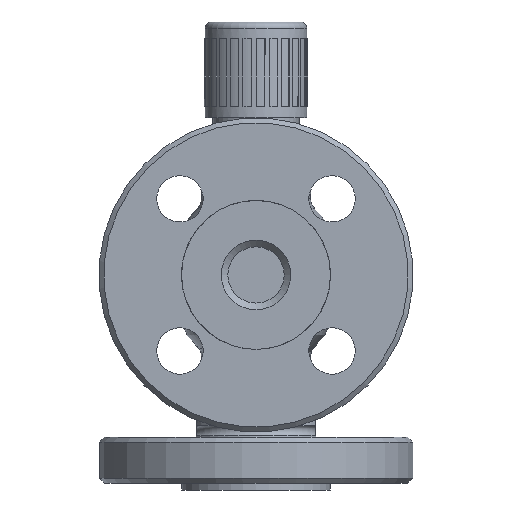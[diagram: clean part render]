
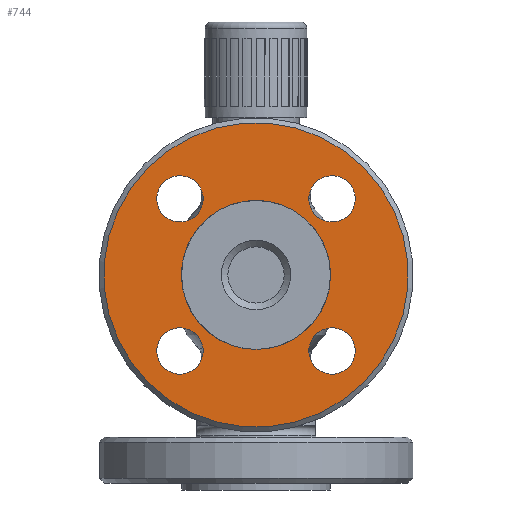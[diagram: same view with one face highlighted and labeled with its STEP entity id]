
A CAD part, left-side view. The second image highlights one B-rep face of the part: STEP entity #744.
In plain terms, the highlighted planar face has unit normal (-1, 0, 0).
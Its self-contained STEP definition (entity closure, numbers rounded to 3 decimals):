
#479=FACE_BOUND('',#1549,.T.);
#480=FACE_BOUND('',#1550,.T.);
#481=FACE_BOUND('',#1551,.T.);
#482=FACE_BOUND('',#1552,.T.);
#483=FACE_BOUND('',#1553,.T.);
#484=FACE_BOUND('',#1554,.T.);
#744=ADVANCED_FACE('',(#479,#480,#481,#482,#483,#484),#956,.T.);
#956=PLANE('',#5361);
#1549=EDGE_LOOP('',(#2762));
#1550=EDGE_LOOP('',(#2763));
#1551=EDGE_LOOP('',(#2764));
#1552=EDGE_LOOP('',(#2765));
#1553=EDGE_LOOP('',(#2766));
#1554=EDGE_LOOP('',(#2767));
#1942=CIRCLE('',#5355,46.);
#1943=CIRCLE('',#5356,22.5);
#1944=CIRCLE('',#5357,7.);
#1945=CIRCLE('',#5358,7.);
#1946=CIRCLE('',#5359,7.);
#1947=CIRCLE('',#5360,7.);
#2762=ORIENTED_EDGE('',*,*,#4237,.T.);
#2763=ORIENTED_EDGE('',*,*,#4238,.F.);
#2764=ORIENTED_EDGE('',*,*,#4239,.T.);
#2765=ORIENTED_EDGE('',*,*,#4240,.T.);
#2766=ORIENTED_EDGE('',*,*,#4241,.T.);
#2767=ORIENTED_EDGE('',*,*,#4242,.T.);
#3702=VERTEX_POINT('',#13917);
#3703=VERTEX_POINT('',#13919);
#3704=VERTEX_POINT('',#13921);
#3705=VERTEX_POINT('',#13923);
#3706=VERTEX_POINT('',#13925);
#3707=VERTEX_POINT('',#13927);
#4237=EDGE_CURVE('',#3702,#3702,#1942,.T.);
#4238=EDGE_CURVE('',#3703,#3703,#1943,.T.);
#4239=EDGE_CURVE('',#3704,#3704,#1944,.T.);
#4240=EDGE_CURVE('',#3705,#3705,#1945,.T.);
#4241=EDGE_CURVE('',#3706,#3706,#1946,.T.);
#4242=EDGE_CURVE('',#3707,#3707,#1947,.T.);
#5355=AXIS2_PLACEMENT_3D('',#13916,#6296,#6297);
#5356=AXIS2_PLACEMENT_3D('',#13918,#6298,#6299);
#5357=AXIS2_PLACEMENT_3D('',#13920,#6300,#6301);
#5358=AXIS2_PLACEMENT_3D('',#13922,#6302,#6303);
#5359=AXIS2_PLACEMENT_3D('',#13924,#6304,#6305);
#5360=AXIS2_PLACEMENT_3D('',#13926,#6306,#6307);
#5361=AXIS2_PLACEMENT_3D('',#13928,#6308,#6309);
#6296=DIRECTION('',(-1.,0.,0.));
#6297=DIRECTION('',(0.,0.707,0.707));
#6298=DIRECTION('',(-1.,0.,0.));
#6299=DIRECTION('',(0.,0.707,0.707));
#6300=DIRECTION('',(1.,0.,0.));
#6301=DIRECTION('',(0.,-0.707,0.707));
#6302=DIRECTION('',(1.,0.,0.));
#6303=DIRECTION('',(0.,0.707,0.707));
#6304=DIRECTION('',(1.,0.,0.));
#6305=DIRECTION('',(0.,0.707,-0.707));
#6306=DIRECTION('',(1.,0.,0.));
#6307=DIRECTION('',(0.,-0.707,-0.707));
#6308=DIRECTION('',(-1.,0.,0.));
#6309=DIRECTION('',(0.,0.707,0.707));
#13916=CARTESIAN_POINT('',(37.,0.,100.));
#13917=CARTESIAN_POINT('',(37.,32.527,132.527));
#13918=CARTESIAN_POINT('',(37.,0.,100.));
#13919=CARTESIAN_POINT('',(37.,15.91,115.91));
#13920=CARTESIAN_POINT('',(37.,22.981,122.981));
#13921=CARTESIAN_POINT('',(37.,18.031,127.931));
#13922=CARTESIAN_POINT('',(37.,22.981,77.019));
#13923=CARTESIAN_POINT('',(37.,27.931,81.969));
#13924=CARTESIAN_POINT('',(37.,-22.981,77.019));
#13925=CARTESIAN_POINT('',(37.,-18.031,72.069));
#13926=CARTESIAN_POINT('',(37.,-22.981,122.981));
#13927=CARTESIAN_POINT('',(37.,-27.931,118.031));
#13928=CARTESIAN_POINT('',(37.,0.,100.));
